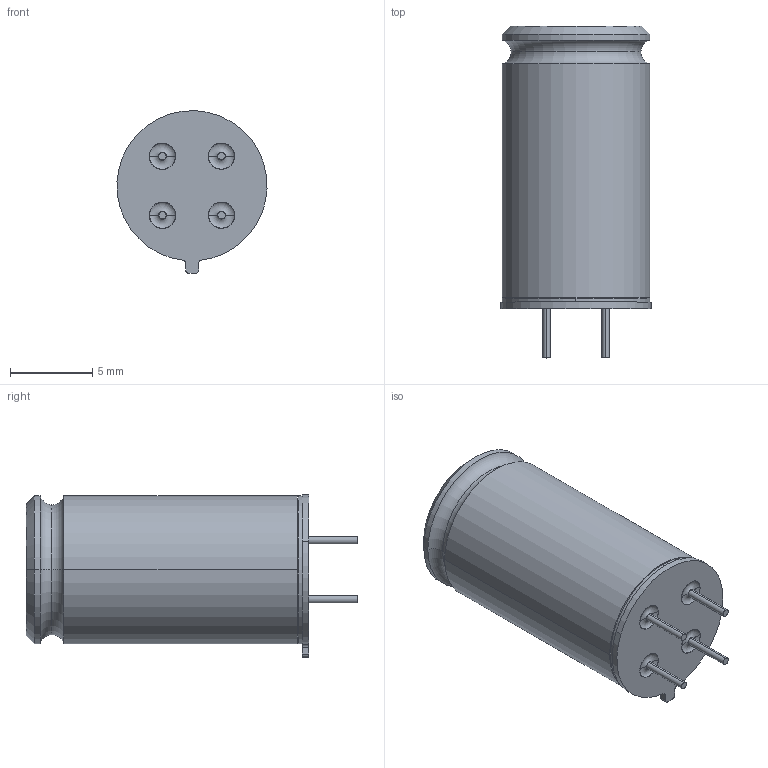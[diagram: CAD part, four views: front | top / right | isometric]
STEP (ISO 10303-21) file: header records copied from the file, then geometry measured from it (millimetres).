
FILE_DESCRIPTION((''),'2;1');
FILE_NAME('MLX90614XCF_-_ALTIUM_ASM','2019-02-08T',('jre'),(''),'PRO/ENGINEER BY PARAMETRIC TECHNOLOGY CORPORATION, 2010280','PRO/ENGINEER BY PARAMETRIC TECHNOLOGY CORPORATION, 2010280','');
FILE_SCHEMA(('CONFIG_CONTROL_DESIGN'));
Length unit declared in the file: millimetre
Products named in the file (11): PRT0016; PRT0017; PRT0018; PRT0019; PRT0020; ASM0002_ASM; PRT0021; PRT0022; MLX90614XCF_-_ALTIUM_ANY_ASM; _MLX90614XCF_-_ALTIUM; MLX90614XCF_-_ALTIUM_ASM
Assembly tree (16 placements, depth 4):
  MLX90614XCF_-_ALTIUM_ASM
    MLX90614XCF_-_ALTIUM_ANY_ASM
      ASM0002_ASM
        PRT0016  x4
        PRT0017  x4
        PRT0018
        PRT0019
        PRT0020
      PRT0021
      PRT0022
    _MLX90614XCF_-_ALTIUM
Bounding box: 9.13 x 20.2 x 9.9 mm (x, y, z)
Volume: 660.1 mm3; surface area: 1522.8 mm2
Topology: 13 solids, 13 shells, 213 faces, 435 edges, 266 vertices
Faces by surface type: cylinder 68, plane 55, cone 50, torus 40
Entity records: 4565 total; most frequent: DIRECTION 921, CARTESIAN_POINT 718, ORIENTED_EDGE 654, AXIS2_PLACEMENT_3D 397, EDGE_CURVE 327, CIRCLE 200, VERTEX_POINT 194, EDGE_LOOP 179
